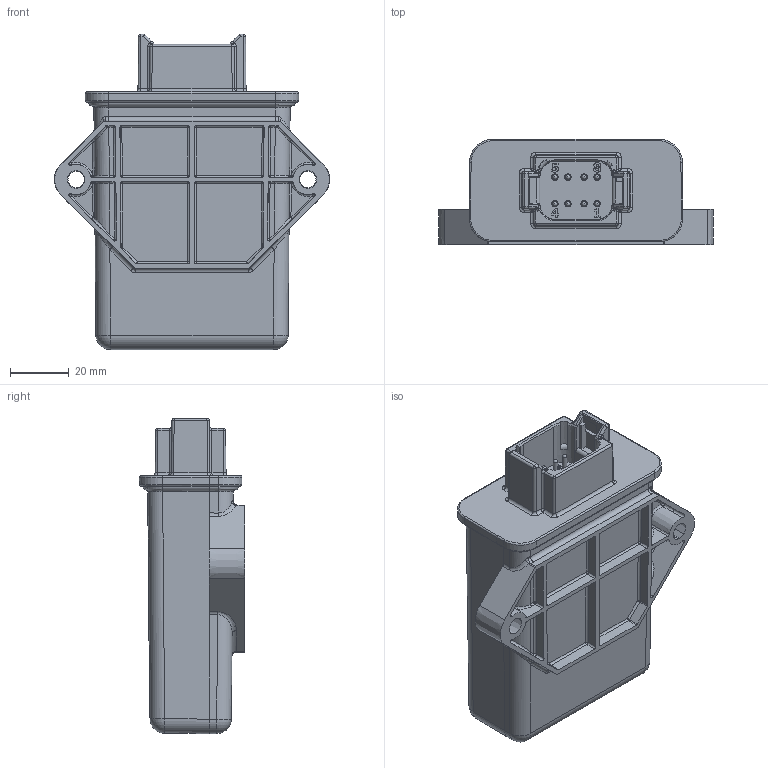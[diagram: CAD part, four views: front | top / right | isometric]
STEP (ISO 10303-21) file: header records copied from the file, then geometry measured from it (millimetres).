
FILE_DESCRIPTION(/* description */ (''),/* implementation_level */ '2;1');
FILE_NAME(/* name */ 'S:\Projects\Marketing\GENERIC DRAWINGS\LASER WELDED ENCLOSURE\8PIN LASER WELDED ENCLOSURE\STEP\8 PIN LW ENCLOSURE.stp',/* time_stamp */ '2024-01-25T18:22:41-05:00',/* author */ ('elondono'),/* organization */ (''),/* preprocessor_version */ 'ST-DEVELOPER v18.1',/* originating_system */ 'Autodesk Inventor 2021',/* authorisation */ '');
FILE_SCHEMA (('AUTOMOTIVE_DESIGN { 1 0 10303 214 3 1 1 }'));
Length unit declared in the file: inch
Products named in the file (1): 8 PIN LW ENCLOSURE FOR STEP
Bounding box: 93.6 x 35.82 x 107.31 mm (x, y, z)
Volume: 174535.6 mm3; surface area: 30545.1 mm2
Topology: 1 solids, 1 shells, 649 faces, 1596 edges, 946 vertices
Faces by surface type: cylinder 216, plane 201, bspline 118, sphere 60, cone 36, torus 18
Full cylindrical faces by diameter (mm): 1.562 x8
Entity records: 23109 total; most frequent: CARTESIAN_POINT 7654, ORIENTED_EDGE 3132, DIRECTION 2990, EDGE_CURVE 1566, AXIS2_PLACEMENT_3D 1096, VERTEX_POINT 946, LINE 798, VECTOR 798
